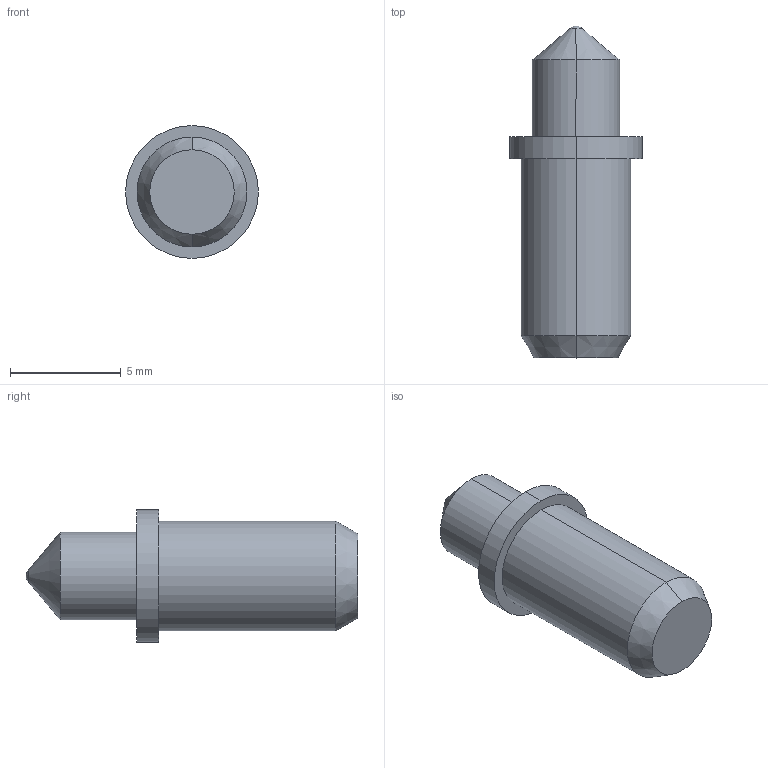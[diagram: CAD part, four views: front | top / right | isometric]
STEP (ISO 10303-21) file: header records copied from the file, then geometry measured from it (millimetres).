
FILE_DESCRIPTION (( 'STEP AP214' ), '1' );
FILE_NAME ('PC4B.STEP', '2021-07-19T11:45:50', ( '' ), ( '' ), 'SwSTEP 2.0', 'SolidWorks 2021', '' );
FILE_SCHEMA (( 'AUTOMOTIVE_DESIGN' ));
Length unit declared in the file: millimetre
Products named in the file (1): PC4B
Bounding box: 6 x 15 x 6 mm (x, y, z)
Surface area: 255.2 mm2 (no closed solid volume)
Topology: 0 solids, 2 shells, 15 faces, 28 edges, 18 vertices
Faces by surface type: cylinder 6, cone 4, plane 3, sphere 2
Entity records: 451 total; most frequent: CARTESIAN_POINT 104, DIRECTION 74, ORIENTED_EDGE 54, AXIS2_PLACEMENT_3D 32, EDGE_CURVE 28, VERTEX_POINT 18, EDGE_LOOP 17, CIRCLE 16
